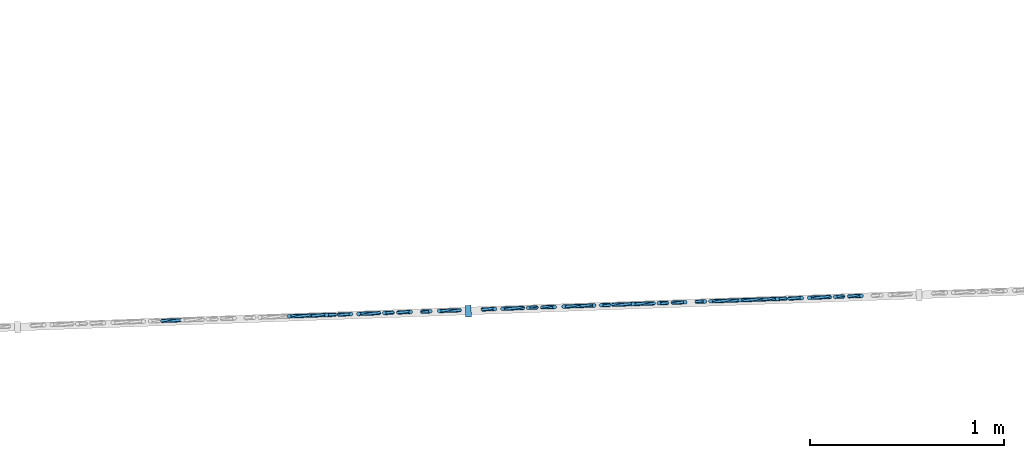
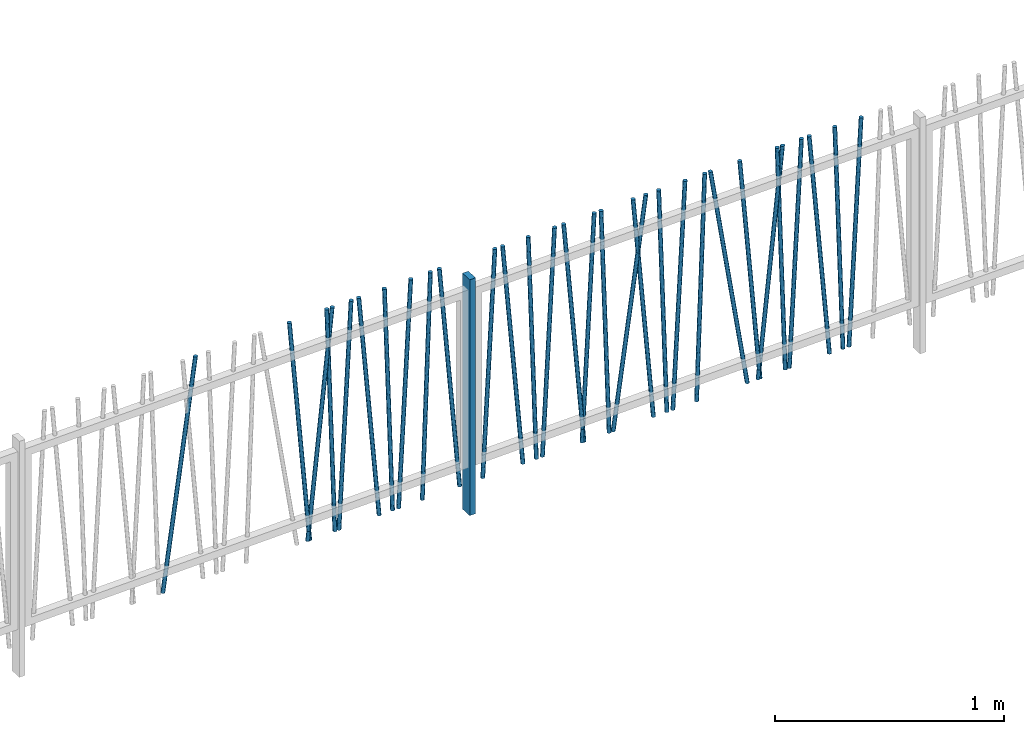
# One storey, part 4 of 171: 31 columns.
"""IFC2X3 building model written with IfcOpenShell, lengths in millimetres."""

from ifc_helpers import new_model, entity, si_unit, converted_unit, derived_unit, money_unit, direction, frame, origin_with_axes, origin_2d_with_axis, place, context, subcontext, project, spatial, rectangle, circle, extrude, clip, halfspace, material, type_object, element, save


model = new_model("IFC2X3")

# Units and contexts
model_context = context("Model", 3, precision=0.01, world=origin_with_axes(), true_north=direction((0.0, 1.0)))
body_context = subcontext(model_context, "Body", "Model", "MODEL_VIEW")
ifc_project = project(units=[si_unit("LENGTHUNIT", "METRE", prefix="MILLI"), si_unit("AREAUNIT", "SQUARE_METRE"), si_unit("VOLUMEUNIT", "CUBIC_METRE"), converted_unit("PLANEANGLEUNIT", "DEGREE", entity("IfcPlaneAngleMeasure", 0.0174532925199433), si_unit("PLANEANGLEUNIT", "RADIAN"), dimensions=[0, 0, 0, 0, 0, 0, 0]), money_unit("USD"), converted_unit("TIMEUNIT", "Year", entity("IfcTimeMeasure", 31557600.0), si_unit("TIMEUNIT", "SECOND"), dimensions=[0, 0, 1, 0, 0, 0, 0]), si_unit("MASSUNIT", "GRAM", prefix="KILO"), si_unit("THERMODYNAMICTEMPERATUREUNIT", "DEGREE_CELSIUS"), si_unit("LUMINOUSINTENSITYUNIT", "LUMEN"), si_unit("ENERGYUNIT", "JOULE", prefix="MEGA"), derived_unit("THERMALCONDUCTANCEUNIT", [(si_unit("POWERUNIT", "WATT"), 1), (si_unit("LENGTHUNIT", "METRE"), -1), (si_unit("THERMODYNAMICTEMPERATUREUNIT", "KELVIN"), -1)]), derived_unit("SPECIFICHEATCAPACITYUNIT", [(si_unit("ENERGYUNIT", "JOULE"), 1), (si_unit("MASSUNIT", "GRAM", prefix="KILO"), -1), (si_unit("THERMODYNAMICTEMPERATUREUNIT", "KELVIN"), -1)]), derived_unit("MASSDENSITYUNIT", [(si_unit("MASSUNIT", "GRAM", prefix="KILO"), 1), (si_unit("VOLUMEUNIT", "CUBIC_METRE"), -1)])], contexts=[model_context])

# Site, building, storey
site_placement = place(None, origin_with_axes())
site = spatial("IfcSite", under=ifc_project, at=site_placement, Name="Site", CompositionType="ELEMENT")
building_placement = place(site_placement, origin_with_axes())
building = spatial("IfcBuilding", under=site, at=building_placement, Name="Bâtiment", CompositionType="ELEMENT")
storey_placement = place(building_placement, frame((0.0, 0.0, 3000.0), z_axis=(0.0, 0.0, 1.0), x_axis=(1.0, 0.0, 0.0)))
storey = spatial("IfcBuildingStorey", under=building, at=storey_placement, Name="rdc", CompositionType="ELEMENT", Elevation=3000.0)

# Columns
ifc_material = material(Name="Empty Fill 2959611567")
column_type_1 = type_object("IfcColumnType", Name="Empty Fill 2959611567 D20", PredefinedType="NOTDEFINED")
for number, where, z_axis, x_axis, name in (
    (1, (2227004.763338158, -667790.1630718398, -1950.0), (0.0, 0.0, 1.0), (-0.03567989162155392, 0.9993632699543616, 0.0), "Pilier-019"),
    (2, (2227778.140722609, -667762.5514694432, -1950.0), (0.0, 0.0, 1.0), (-0.03567989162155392, 0.9993632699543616, 0.0), "Pilier-019"),
):
    element("IfcColumn", number, at=place(storey_placement, frame(where, z_axis=z_axis, x_axis=x_axis)), inside=storey, type_object=column_type_1, material=ifc_material, Name=name, context=body_context, shape_type="Clipping", body=[
        clip(clip(extrude(circle(Radius=10.0, at=origin_2d_with_axis()), frame((0.0, -0.152502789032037, -1.743114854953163), z_axis=(0.0, 0.08715574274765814, 0.9961946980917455), x_axis=(1.0, 0.0, 0.0)), (0.0, 0.0, 1.0), 1208.083351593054), halfspace(frame((0.0, 0.0, 0.0), z_axis=(0.0, 0.0, 1.0), x_axis=(0.0, -1.0, 0.0)), True)), halfspace(frame((0.0, 0.0, 1200.0), z_axis=(0.0, 0.0, -1.0), x_axis=(0.0, 1.0, 0.0)), True)),
    ])
column_1_placement = place(storey_placement, frame((2226247.428276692, -667817.201921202, -1950.0), z_axis=(0.0, 0.0, 1.0), x_axis=(0.03567989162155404, -0.9993632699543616, 0.0)))
element("IfcColumn", 3, at=column_1_placement, inside=storey, type_object=column_type_1, material=ifc_material, Name="Pilier-019", context=body_context, shape_type="Clipping", body=[
    clip(clip(extrude(circle(Radius=10.0, at=origin_2d_with_axis()), frame((0.0, -0.3911900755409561, -2.78346201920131), z_axis=(0.0, -0.1391731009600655, -0.9902680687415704), x_axis=(-1.0, 0.0, 0.0)), (0.0, 0.0, -1.0), 1217.414720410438), halfspace(frame((0.0, 0.0, 0.0), z_axis=(0.0, 0.0, 1.0), x_axis=(0.0, -1.0, 0.0)), True)), halfspace(frame((0.0, 0.0, 1200.0), z_axis=(0.0, 0.0, -1.0), x_axis=(0.0, 1.0, 0.0)), True)),
])
column_2_placement = place(storey_placement, frame((2226994.865003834, -667790.516468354, -1950.0), z_axis=(0.0, 0.0, 1.0), x_axis=(0.03567989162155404, -0.9993632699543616, 0.0)))
element("IfcColumn", 4, at=column_2_placement, inside=storey, type_object=column_type_1, material=ifc_material, Name="Pilier-019", context=body_context, shape_type="Clipping", body=[
    clip(clip(extrude(circle(Radius=10.0, at=origin_2d_with_axis()), frame((0.0, -0.2197276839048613, -2.090569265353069), z_axis=(0.0, -0.1045284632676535, -0.9945218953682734), x_axis=(-1.0, 0.0, 0.0)), (0.0, 0.0, -1.0), 1210.814104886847), halfspace(frame((0.0, 0.0, 0.0), z_axis=(0.0, 0.0, 1.0), x_axis=(0.0, -1.0, 0.0)), True)), halfspace(frame((0.0, 0.0, 1200.0), z_axis=(0.0, 0.0, -1.0), x_axis=(0.0, 1.0, 0.0)), True)),
])
column_3_placement = place(storey_placement, frame((2227463.416362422, -667773.7879551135, -1950.0), z_axis=(0.0, 0.0, 1.0), x_axis=(0.03567989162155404, -0.9993632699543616, 0.0)))
element("IfcColumn", 5, at=column_3_placement, inside=storey, type_object=column_type_1, material=ifc_material, Name="Pilier-019", context=body_context, shape_type="Clipping", body=[
    clip(clip(extrude(circle(Radius=10.0, at=origin_2d_with_axis()), frame((0.0, -0.05485622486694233, -1.046719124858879), z_axis=(0.0, -0.05233595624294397, -0.9986295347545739), x_axis=(-1.0, 0.0, 0.0)), (0.0, 0.0, -1.0), 1203.743126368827), halfspace(frame((0.0, 0.0, 0.0), z_axis=(0.0, 0.0, 1.0), x_axis=(0.0, -1.0, 0.0)), True)), halfspace(frame((0.0, 0.0, 1200.0), z_axis=(0.0, 0.0, -1.0), x_axis=(0.0, 1.0, 0.0)), True)),
])
column_4_placement = place(storey_placement, frame((2227432.143133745, -667774.9044914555, -1950.0), z_axis=(0.0, 0.0, 1.0), x_axis=(-0.03567989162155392, 0.9993632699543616, 0.0)))
element("IfcColumn", 6, at=column_4_placement, inside=storey, type_object=column_type_1, material=ifc_material, Name="Pilier-019", context=body_context, shape_type="Clipping", body=[
    clip(clip(extrude(circle(Radius=10.0, at=origin_2d_with_axis()), frame((0.0, -0.02437434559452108, -0.6979899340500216), z_axis=(0.0, 0.03489949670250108, 0.9993908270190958), x_axis=(1.0, 0.0, 0.0)), (0.0, 0.0, 1.0), 1202.128283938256), halfspace(frame((0.0, 0.0, 0.0), z_axis=(0.0, 0.0, 1.0), x_axis=(0.0, -1.0, 0.0)), True)), halfspace(frame((0.0, 0.0, 1200.0), z_axis=(0.0, 0.0, -1.0), x_axis=(0.0, 1.0, 0.0)), True)),
])
column_5_placement = place(storey_placement, frame((2227155.714503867, -667784.7737190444, -1950.0), z_axis=(0.0, 0.0, 1.0), x_axis=(0.03567989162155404, -0.9993632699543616, 0.0)))
element("IfcColumn", 7, at=column_5_placement, inside=storey, type_object=column_type_1, material=ifc_material, Name="Pilier-019", context=body_context, shape_type="Clipping", body=[
    clip(clip(extrude(circle(Radius=10.0, at=origin_2d_with_axis()), frame((0.0, -0.05485622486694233, -1.046719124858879), z_axis=(0.0, -0.05233595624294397, -0.9986295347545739), x_axis=(-1.0, 0.0, 0.0)), (0.0, 0.0, -1.0), 1203.743126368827), halfspace(frame((0.0, 0.0, 0.0), z_axis=(0.0, 0.0, 1.0), x_axis=(0.0, -1.0, 0.0)), True)), halfspace(frame((0.0, 0.0, 1200.0), z_axis=(0.0, 0.0, -1.0), x_axis=(0.0, 1.0, 0.0)), True)),
])
column_6_placement = place(storey_placement, frame((2227362.723016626, -667777.3829718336, -1950.0), z_axis=(0.0, 0.0, 1.0), x_axis=(-0.03567989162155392, 0.9993632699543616, 0.0)))
element("IfcColumn", 8, at=column_6_placement, inside=storey, type_object=column_type_1, material=ifc_material, Name="Pilier-019", context=body_context, shape_type="Clipping", body=[
    clip(clip(extrude(circle(Radius=10.0, at=origin_2d_with_axis()), frame((0.0, -0.152502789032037, -1.743114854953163), z_axis=(0.0, 0.08715574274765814, 0.9961946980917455), x_axis=(1.0, 0.0, 0.0)), (0.0, 0.0, 1.0), 1208.083351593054), halfspace(frame((0.0, 0.0, 0.0), z_axis=(0.0, 0.0, 1.0), x_axis=(0.0, -1.0, 0.0)), True)), halfspace(frame((0.0, 0.0, 1200.0), z_axis=(0.0, 0.0, -1.0), x_axis=(0.0, 1.0, 0.0)), True)),
])
column_7_placement = place(storey_placement, frame((2227134.593583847, -667785.5277913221, -1950.0), z_axis=(0.0, 0.0, 1.0), x_axis=(-0.03567989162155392, 0.9993632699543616, 0.0)))
element("IfcColumn", 9, at=column_7_placement, inside=storey, type_object=column_type_1, material=ifc_material, Name="Pilier-019", context=body_context, shape_type="Clipping", body=[
    clip(clip(extrude(circle(Radius=10.0, at=origin_2d_with_axis()), frame((0.0, -0.02437434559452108, -0.6979899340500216), z_axis=(0.0, 0.03489949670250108, 0.9993908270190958), x_axis=(1.0, 0.0, 0.0)), (0.0, 0.0, 1.0), 1202.128283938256), halfspace(frame((0.0, 0.0, 0.0), z_axis=(0.0, 0.0, 1.0), x_axis=(0.0, -1.0, 0.0)), True)), halfspace(frame((0.0, 0.0, 1200.0), z_axis=(0.0, 0.0, -1.0), x_axis=(0.0, 1.0, 0.0)), True)),
])
column_8_placement = place(storey_placement, frame((2228409.566696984, -667740.0079049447, -1950.0), z_axis=(0.0, 0.0, 1.0), x_axis=(0.03567989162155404, -0.9993632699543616, 0.0)))
element("IfcColumn", 10, at=column_8_placement, inside=storey, type_object=column_type_1, material=ifc_material, Name="Pilier-019", context=body_context, shape_type="Clipping", body=[
    clip(clip(extrude(circle(Radius=10.0, at=origin_2d_with_axis()), frame((0.0, -0.05485622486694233, -1.046719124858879), z_axis=(0.0, -0.05233595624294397, -0.9986295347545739), x_axis=(-1.0, 0.0, 0.0)), (0.0, 0.0, -1.0), 1203.743126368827), halfspace(frame((0.0, 0.0, 0.0), z_axis=(0.0, 0.0, 1.0), x_axis=(0.0, -1.0, 0.0)), True)), halfspace(frame((0.0, 0.0, 1200.0), z_axis=(0.0, 0.0, -1.0), x_axis=(0.0, 1.0, 0.0)), True)),
])
column_9_placement = place(storey_placement, frame((2229000.37313102, -667718.9145646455, -1950.0), z_axis=(0.0, 0.0, 1.0), x_axis=(0.03567989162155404, -0.9993632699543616, 0.0)))
element("IfcColumn", 11, at=column_9_placement, inside=storey, type_object=column_type_1, material=ifc_material, Name="Pilier-019", context=body_context, shape_type="Clipping", body=[
    clip(clip(extrude(circle(Radius=10.0, at=origin_2d_with_axis()), frame((0.0, -0.02437434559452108, -0.6979899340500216), z_axis=(0.0, -0.03489949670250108, -0.9993908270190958), x_axis=(-1.0, 0.0, 0.0)), (0.0, 0.0, -1.0), 1202.128283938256), halfspace(frame((0.0, 0.0, 0.0), z_axis=(0.0, 0.0, 1.0), x_axis=(0.0, -1.0, 0.0)), True)), halfspace(frame((0.0, 0.0, 1200.0), z_axis=(0.0, 0.0, -1.0), x_axis=(0.0, 1.0, 0.0)), True)),
])
for number, where, z_axis, x_axis, name in (
    (12, (2228846.844826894, -667724.3959280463, -1950.0), (0.0, 0.0, 1.0), (-0.03567989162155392, 0.9993632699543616, 0.0), "Pilier-019"),
    (13, (2228549.295276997, -667735.0192279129, -1950.0), (0.0, 0.0, 1.0), (-0.03567989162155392, 0.9993632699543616, 0.0), "Pilier-019"),
):
    element("IfcColumn", number, at=place(storey_placement, frame(where, z_axis=z_axis, x_axis=x_axis)), inside=storey, type_object=column_type_1, material=ifc_material, Name=name, context=body_context, shape_type="Clipping", body=[
        clip(clip(extrude(circle(Radius=10.0, at=origin_2d_with_axis()), frame((0.0, -0.02437434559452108, -0.6979899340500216), z_axis=(0.0, 0.03489949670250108, 0.9993908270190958), x_axis=(1.0, 0.0, 0.0)), (0.0, 0.0, 1.0), 1202.128283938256), halfspace(frame((0.0, 0.0, 0.0), z_axis=(0.0, 0.0, 1.0), x_axis=(0.0, -1.0, 0.0)), True)), halfspace(frame((0.0, 0.0, 1200.0), z_axis=(0.0, 0.0, -1.0), x_axis=(0.0, 1.0, 0.0)), True)),
    ])
column_10_placement = place(storey_placement, frame((2229261.544936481, -667709.5900457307, -1950.0), z_axis=(0.0, 0.0, 1.0), x_axis=(-0.03567989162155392, 0.9993632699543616, 0.0)))
element("IfcColumn", 14, at=column_10_placement, inside=storey, type_object=column_type_1, material=ifc_material, Name="Pilier-019", context=body_context, shape_type="Clipping", body=[
    clip(clip(extrude(circle(Radius=10.0, at=origin_2d_with_axis()), frame((0.0, -0.4955357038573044, -3.128689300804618), z_axis=(0.0, 0.1564344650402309, 0.9876883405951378), x_axis=(1.0, 0.0, 0.0)), (0.0, 0.0, 1.0), 1221.293528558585), halfspace(frame((0.0, 0.0, 0.0), z_axis=(0.0, 0.0, 1.0), x_axis=(0.0, -1.0, 0.0)), True)), halfspace(frame((0.0, 0.0, 1200.0), z_axis=(0.0, 0.0, -1.0), x_axis=(0.0, 1.0, 0.0)), True)),
])
column_11_placement = place(storey_placement, frame((2228878.118055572, -667723.2793917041, -1950.0), z_axis=(0.0, 0.0, 1.0), x_axis=(0.03567989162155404, -0.9993632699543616, 0.0)))
element("IfcColumn", 15, at=column_11_placement, inside=storey, type_object=column_type_1, material=ifc_material, Name="Pilier-019", context=body_context, shape_type="Clipping", body=[
    clip(clip(extrude(circle(Radius=10.0, at=origin_2d_with_axis()), frame((0.0, -0.05485622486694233, -1.046719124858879), z_axis=(0.0, -0.05233595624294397, -0.9986295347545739), x_axis=(-1.0, 0.0, 0.0)), (0.0, 0.0, -1.0), 1203.743126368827), halfspace(frame((0.0, 0.0, 0.0), z_axis=(0.0, 0.0, 1.0), x_axis=(0.0, -1.0, 0.0)), True)), halfspace(frame((0.0, 0.0, 1200.0), z_axis=(0.0, 0.0, -1.0), x_axis=(0.0, 1.0, 0.0)), True)),
])
for number, where, z_axis, x_axis, name in (
    (16, (2229327.751258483, -667707.226306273, -1950.0), (0.0, 0.0, 1.0), (-0.03567989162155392, 0.9993632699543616, 0.0), "Pilier-019"),
    (17, (2228419.465031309, -667739.6545084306, -1950.0), (0.0, 0.0, 1.0), (-0.03567989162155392, 0.9993632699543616, 0.0), "Pilier-019"),
):
    element("IfcColumn", number, at=place(storey_placement, frame(where, z_axis=z_axis, x_axis=x_axis)), inside=storey, type_object=column_type_1, material=ifc_material, Name=name, context=body_context, shape_type="Clipping", body=[
        clip(clip(extrude(circle(Radius=10.0, at=origin_2d_with_axis()), frame((0.0, -0.152502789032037, -1.743114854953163), z_axis=(0.0, 0.08715574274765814, 0.9961946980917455), x_axis=(1.0, 0.0, 0.0)), (0.0, 0.0, 1.0), 1208.083351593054), halfspace(frame((0.0, 0.0, 0.0), z_axis=(0.0, 0.0, 1.0), x_axis=(0.0, -1.0, 0.0)), True)), halfspace(frame((0.0, 0.0, 1200.0), z_axis=(0.0, 0.0, -1.0), x_axis=(0.0, 1.0, 0.0)), True)),
    ])
column_12_placement = place(storey_placement, frame((2228205.111058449, -667747.3075078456, -1950.0), z_axis=(0.0, 0.0, 1.0), x_axis=(0.03567989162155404, -0.9993632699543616, 0.0)))
element("IfcColumn", 18, at=column_12_placement, inside=storey, type_object=column_type_1, material=ifc_material, Name="Pilier-019", context=body_context, shape_type="Clipping", body=[
    clip(clip(extrude(circle(Radius=10.0, at=origin_2d_with_axis()), frame((0.0, -0.05485622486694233, -1.046719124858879), z_axis=(0.0, -0.05233595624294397, -0.9986295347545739), x_axis=(-1.0, 0.0, 0.0)), (0.0, 0.0, -1.0), 1203.743126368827), halfspace(frame((0.0, 0.0, 0.0), z_axis=(0.0, 0.0, 1.0), x_axis=(0.0, -1.0, 0.0)), True)), halfspace(frame((0.0, 0.0, 1200.0), z_axis=(0.0, 0.0, -1.0), x_axis=(0.0, 1.0, 0.0)), True)),
])
column_13_placement = place(storey_placement, frame((2228173.837829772, -667748.4240441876, -1950.0), z_axis=(0.0, 0.0, 1.0), x_axis=(-0.03567989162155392, 0.9993632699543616, 0.0)))
element("IfcColumn", 19, at=column_13_placement, inside=storey, type_object=column_type_1, material=ifc_material, Name="Pilier-019", context=body_context, shape_type="Clipping", body=[
    clip(clip(extrude(circle(Radius=10.0, at=origin_2d_with_axis()), frame((0.0, -0.02437434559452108, -0.6979899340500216), z_axis=(0.0, 0.03489949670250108, 0.9993908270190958), x_axis=(1.0, 0.0, 0.0)), (0.0, 0.0, 1.0), 1202.128283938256), halfspace(frame((0.0, 0.0, 0.0), z_axis=(0.0, 0.0, 1.0), x_axis=(0.0, -1.0, 0.0)), True)), halfspace(frame((0.0, 0.0, 1200.0), z_axis=(0.0, 0.0, -1.0), x_axis=(0.0, 1.0, 0.0)), True)),
])
column_14_placement = place(storey_placement, frame((2228570.416197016, -667734.2651556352, -1950.0), z_axis=(0.0, 0.0, 1.0), x_axis=(0.03567989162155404, -0.9993632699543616, 0.0)))
element("IfcColumn", 20, at=column_14_placement, inside=storey, type_object=column_type_1, material=ifc_material, Name="Pilier-019", context=body_context, shape_type="Clipping", body=[
    clip(clip(extrude(circle(Radius=10.0, at=origin_2d_with_axis()), frame((0.0, -0.3911900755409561, -2.78346201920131), z_axis=(0.0, -0.1391731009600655, -0.9902680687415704), x_axis=(-1.0, 0.0, 0.0)), (0.0, 0.0, -1.0), 1217.414720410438), halfspace(frame((0.0, 0.0, 0.0), z_axis=(0.0, 0.0, 1.0), x_axis=(0.0, -1.0, 0.0)), True)), halfspace(frame((0.0, 0.0, 1200.0), z_axis=(0.0, 0.0, -1.0), x_axis=(0.0, 1.0, 0.0)), True)),
])
column_15_placement = place(storey_placement, frame((2229317.852924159, -667707.5797027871, -1950.0), z_axis=(0.0, 0.0, 1.0), x_axis=(0.03567989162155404, -0.9993632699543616, 0.0)))
element("IfcColumn", 21, at=column_15_placement, inside=storey, type_object=column_type_1, material=ifc_material, Name="Pilier-019", context=body_context, shape_type="Clipping", body=[
    clip(clip(extrude(circle(Radius=10.0, at=origin_2d_with_axis()), frame((0.0, -0.2197276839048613, -2.090569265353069), z_axis=(0.0, -0.1045284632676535, -0.9945218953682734), x_axis=(-1.0, 0.0, 0.0)), (0.0, 0.0, -1.0), 1210.814104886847), halfspace(frame((0.0, 0.0, 0.0), z_axis=(0.0, 0.0, 1.0), x_axis=(0.0, -1.0, 0.0)), True)), halfspace(frame((0.0, 0.0, 1200.0), z_axis=(0.0, 0.0, -1.0), x_axis=(0.0, 1.0, 0.0)), True)),
])
column_16_placement = place(storey_placement, frame((2228777.424709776, -667726.8744084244, -1950.0), z_axis=(0.0, 0.0, 1.0), x_axis=(-0.03567989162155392, 0.9993632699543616, 0.0)))
element("IfcColumn", 22, at=column_16_placement, inside=storey, type_object=column_type_1, material=ifc_material, Name="Pilier-019", context=body_context, shape_type="Clipping", body=[
    clip(clip(extrude(circle(Radius=10.0, at=origin_2d_with_axis()), frame((0.0, -0.152502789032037, -1.743114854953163), z_axis=(0.0, 0.08715574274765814, 0.9961946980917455), x_axis=(1.0, 0.0, 0.0)), (0.0, 0.0, 1.0), 1208.083351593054), halfspace(frame((0.0, 0.0, 0.0), z_axis=(0.0, 0.0, 1.0), x_axis=(0.0, -1.0, 0.0)), True)), halfspace(frame((0.0, 0.0, 1200.0), z_axis=(0.0, 0.0, -1.0), x_axis=(0.0, 1.0, 0.0)), True)),
])
column_17_placement = place(storey_placement, frame((2229786.404282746, -667690.8511895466, -1950.0), z_axis=(0.0, 0.0, 1.0), x_axis=(0.03567989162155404, -0.9993632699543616, 0.0)))
element("IfcColumn", 23, at=column_17_placement, inside=storey, type_object=column_type_1, material=ifc_material, Name="Pilier-019", context=body_context, shape_type="Clipping", body=[
    clip(clip(extrude(circle(Radius=10.0, at=origin_2d_with_axis()), frame((0.0, -0.05485622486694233, -1.046719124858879), z_axis=(0.0, -0.05233595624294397, -0.9986295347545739), x_axis=(-1.0, 0.0, 0.0)), (0.0, 0.0, -1.0), 1203.743126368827), halfspace(frame((0.0, 0.0, 0.0), z_axis=(0.0, 0.0, 1.0), x_axis=(0.0, -1.0, 0.0)), True)), halfspace(frame((0.0, 0.0, 1200.0), z_axis=(0.0, 0.0, -1.0), x_axis=(0.0, 1.0, 0.0)), True)),
])
column_18_placement = place(storey_placement, frame((2229685.71093695, -667694.4462062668, -1950.0), z_axis=(0.0, 0.0, 1.0), x_axis=(-0.03567989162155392, 0.9993632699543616, 0.0)))
element("IfcColumn", 24, at=column_18_placement, inside=storey, type_object=column_type_1, material=ifc_material, Name="Pilier-019", context=body_context, shape_type="Clipping", body=[
    clip(clip(extrude(circle(Radius=10.0, at=origin_2d_with_axis()), frame((0.0, -0.152502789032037, -1.743114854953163), z_axis=(0.0, 0.08715574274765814, 0.9961946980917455), x_axis=(1.0, 0.0, 0.0)), (0.0, 0.0, 1.0), 1208.083351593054), halfspace(frame((0.0, 0.0, 0.0), z_axis=(0.0, 0.0, 1.0), x_axis=(0.0, -1.0, 0.0)), True)), halfspace(frame((0.0, 0.0, 1200.0), z_axis=(0.0, 0.0, -1.0), x_axis=(0.0, 1.0, 0.0)), True)),
])
column_19_placement = place(storey_placement, frame((2227585.67143787, -667769.4231280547, -1950.0), z_axis=(0.0, 0.0, 1.0), x_axis=(0.03567989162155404, -0.9993632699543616, 0.0)))
element("IfcColumn", 25, at=column_19_placement, inside=storey, type_object=column_type_1, material=ifc_material, Name="Pilier-019", context=body_context, shape_type="Clipping", body=[
    clip(clip(extrude(circle(Radius=10.0, at=origin_2d_with_axis()), frame((0.0, -0.02437434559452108, -0.6979899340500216), z_axis=(0.0, -0.03489949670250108, -0.9993908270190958), x_axis=(-1.0, 0.0, 0.0)), (0.0, 0.0, -1.0), 1202.128283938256), halfspace(frame((0.0, 0.0, 0.0), z_axis=(0.0, 0.0, 1.0), x_axis=(0.0, -1.0, 0.0)), True)), halfspace(frame((0.0, 0.0, 1200.0), z_axis=(0.0, 0.0, -1.0), x_axis=(0.0, 1.0, 0.0)), True)),
])
column_20_placement = place(storey_placement, frame((2229478.70242419, -667701.8369534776, -1950.0), z_axis=(0.0, 0.0, 1.0), x_axis=(0.03567989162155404, -0.9993632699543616, 0.0)))
element("IfcColumn", 26, at=column_20_placement, inside=storey, type_object=column_type_1, material=ifc_material, Name="Pilier-019", context=body_context, shape_type="Clipping", body=[
    clip(clip(extrude(circle(Radius=10.0, at=origin_2d_with_axis()), frame((0.0, -0.05485622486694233, -1.046719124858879), z_axis=(0.0, -0.05233595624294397, -0.9986295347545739), x_axis=(-1.0, 0.0, 0.0)), (0.0, 0.0, -1.0), 1203.743126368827), halfspace(frame((0.0, 0.0, 0.0), z_axis=(0.0, 0.0, 1.0), x_axis=(0.0, -1.0, 0.0)), True)), halfspace(frame((0.0, 0.0, 1200.0), z_axis=(0.0, 0.0, -1.0), x_axis=(0.0, 1.0, 0.0)), True)),
])
column_21_placement = place(storey_placement, frame((2229755.131054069, -667691.9677258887, -1950.0), z_axis=(0.0, 0.0, 1.0), x_axis=(-0.03567989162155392, 0.9993632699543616, 0.0)))
element("IfcColumn", 27, at=column_21_placement, inside=storey, type_object=column_type_1, material=ifc_material, Name="Pilier-019", context=body_context, shape_type="Clipping", body=[
    clip(clip(extrude(circle(Radius=10.0, at=origin_2d_with_axis()), frame((0.0, -0.02437434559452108, -0.6979899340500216), z_axis=(0.0, 0.03489949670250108, 0.9993908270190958), x_axis=(1.0, 0.0, 0.0)), (0.0, 0.0, 1.0), 1202.128283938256), halfspace(frame((0.0, 0.0, 0.0), z_axis=(0.0, 0.0, 1.0), x_axis=(0.0, -1.0, 0.0)), True)), halfspace(frame((0.0, 0.0, 1200.0), z_axis=(0.0, 0.0, -1.0), x_axis=(0.0, 1.0, 0.0)), True)),
])
column_22_placement = place(storey_placement, frame((2227897.409199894, -667758.2932717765, -1950.0), z_axis=(0.0, 0.0, 1.0), x_axis=(0.03567989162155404, -0.9993632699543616, 0.0)))
element("IfcColumn", 28, at=column_22_placement, inside=storey, type_object=column_type_1, material=ifc_material, Name="Pilier-019", context=body_context, shape_type="Clipping", body=[
    clip(clip(extrude(circle(Radius=10.0, at=origin_2d_with_axis()), frame((0.0, -0.05485622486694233, -1.046719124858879), z_axis=(0.0, -0.05233595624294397, -0.9986295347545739), x_axis=(-1.0, 0.0, 0.0)), (0.0, 0.0, -1.0), 1203.743126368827), halfspace(frame((0.0, 0.0, 0.0), z_axis=(0.0, 0.0, 1.0), x_axis=(0.0, -1.0, 0.0)), True)), halfspace(frame((0.0, 0.0, 1200.0), z_axis=(0.0, 0.0, -1.0), x_axis=(0.0, 1.0, 0.0)), True)),
])
column_23_placement = place(storey_placement, frame((2228104.417712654, -667750.9025245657, -1950.0), z_axis=(0.0, 0.0, 1.0), x_axis=(-0.03567989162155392, 0.9993632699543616, 0.0)))
element("IfcColumn", 29, at=column_23_placement, inside=storey, type_object=column_type_1, material=ifc_material, Name="Pilier-019", context=body_context, shape_type="Clipping", body=[
    clip(clip(extrude(circle(Radius=10.0, at=origin_2d_with_axis()), frame((0.0, -0.152502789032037, -1.743114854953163), z_axis=(0.0, 0.08715574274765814, 0.9961946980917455), x_axis=(1.0, 0.0, 0.0)), (0.0, 0.0, 1.0), 1208.083351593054), halfspace(frame((0.0, 0.0, 0.0), z_axis=(0.0, 0.0, 1.0), x_axis=(0.0, -1.0, 0.0)), True)), halfspace(frame((0.0, 0.0, 1200.0), z_axis=(0.0, 0.0, -1.0), x_axis=(0.0, 1.0, 0.0)), True)),
])
column_24_placement = place(storey_placement, frame((2229457.581504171, -667702.5910257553, -1950.0), z_axis=(0.0, 0.0, 1.0), x_axis=(-0.03567989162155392, 0.9993632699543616, 0.0)))
element("IfcColumn", 30, at=column_24_placement, inside=storey, type_object=column_type_1, material=ifc_material, Name="Pilier-019", context=body_context, shape_type="Clipping", body=[
    clip(clip(extrude(circle(Radius=10.0, at=origin_2d_with_axis()), frame((0.0, -0.02437434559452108, -0.6979899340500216), z_axis=(0.0, 0.03489949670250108, 0.9993908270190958), x_axis=(1.0, 0.0, 0.0)), (0.0, 0.0, 1.0), 1202.128283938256), halfspace(frame((0.0, 0.0, 0.0), z_axis=(0.0, 0.0, 1.0), x_axis=(0.0, -1.0, 0.0)), True)), halfspace(frame((0.0, 0.0, 1200.0), z_axis=(0.0, 0.0, -1.0), x_axis=(0.0, 1.0, 0.0)), True)),
])
column_type_2 = type_object("IfcColumnType", Name="Empty Fill 2959611567 30 x 60", PredefinedType="NOTDEFINED")
column_25_placement = place(storey_placement, frame((2227823.180035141, -667766.9734504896, -2100.0), z_axis=(0.0, 0.0, 1.0), x_axis=(0.9993632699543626, 0.03567989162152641, 0.0)))
element("IfcColumn", 31, at=column_25_placement, inside=storey, type_object=column_type_2, material=ifc_material, Name="Pilier-019", context=body_context, shape_type="SweptSolid", body=[
    extrude(rectangle(XDim=30.0, YDim=60.0, at=origin_2d_with_axis()), origin_with_axes(), (0.0, 0.0, 1.0), 1260.0),
])

save(model, "model.ifc")
